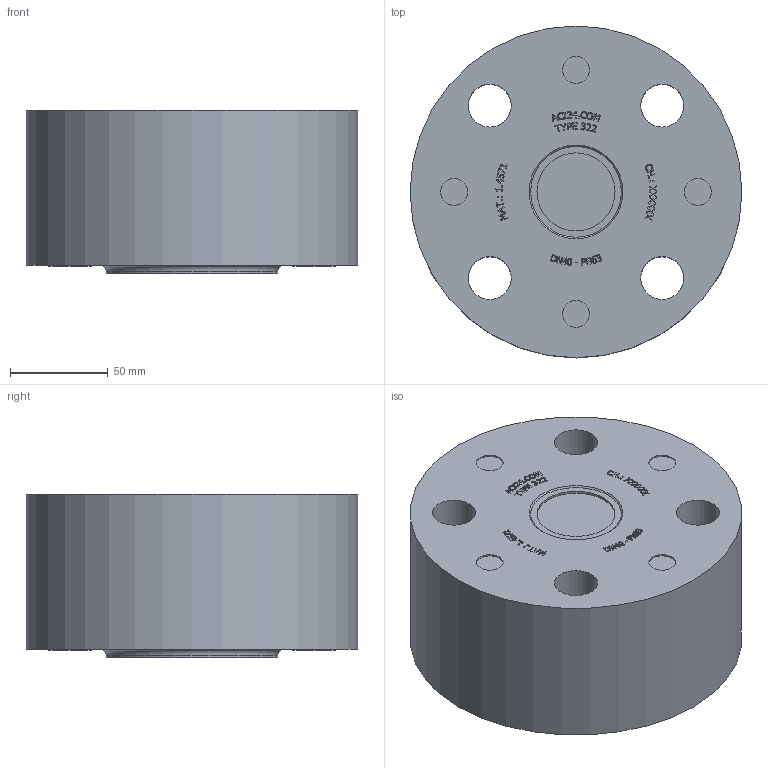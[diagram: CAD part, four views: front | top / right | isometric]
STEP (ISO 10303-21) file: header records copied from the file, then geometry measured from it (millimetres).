
FILE_DESCRIPTION(/* description */ ('ACI TYPE 322 DN 40 PN63'),/* implementation_level */ '2;1');
FILE_NAME(/* name */ 'W:\Konstruktion_ACI\322\ACI-322-40-63.stp',/* time_stamp */ '2020-04-21T10:50:02+02:00',/* author */ ('Götz'),/* organization */ ('ACI Industriearmaturen GmbH info@aci24.com www.aci24.com'),/* preprocessor_version */ 'ST-DEVELOPER v16.1',/* originating_system */ 'Autodesk Inventor 2016',/* authorisation */ 'ACI Industriearmaturen GmbH info@aci24.com www.aci24.com');
FILE_SCHEMA (('CONFIG_CONTROL_DESIGN'));
Length unit declared in the file: centimetre
Products named in the file (1): ACI-322-40-63
Bounding box: 170 x 170 x 84 mm (x, y, z)
Volume: 1703016 mm3; surface area: 108845.5 mm2
Topology: 1 solids, 1 shells, 705 faces, 1894 edges, 1266 vertices
Faces by surface type: plane 484, bspline 203, cylinder 12, torus 5, cone 1
Full cylindrical faces by diameter (mm): 13.835 x4, 22 x4, 40 x2, 88 x1, 170 x1
Entity records: 23413 total; most frequent: CARTESIAN_POINT 6465, ORIENTED_EDGE 3730, DIRECTION 2500, EDGE_CURVE 1865, LINE 1424, VECTOR 1424, VERTEX_POINT 1255, EDGE_LOOP 806
